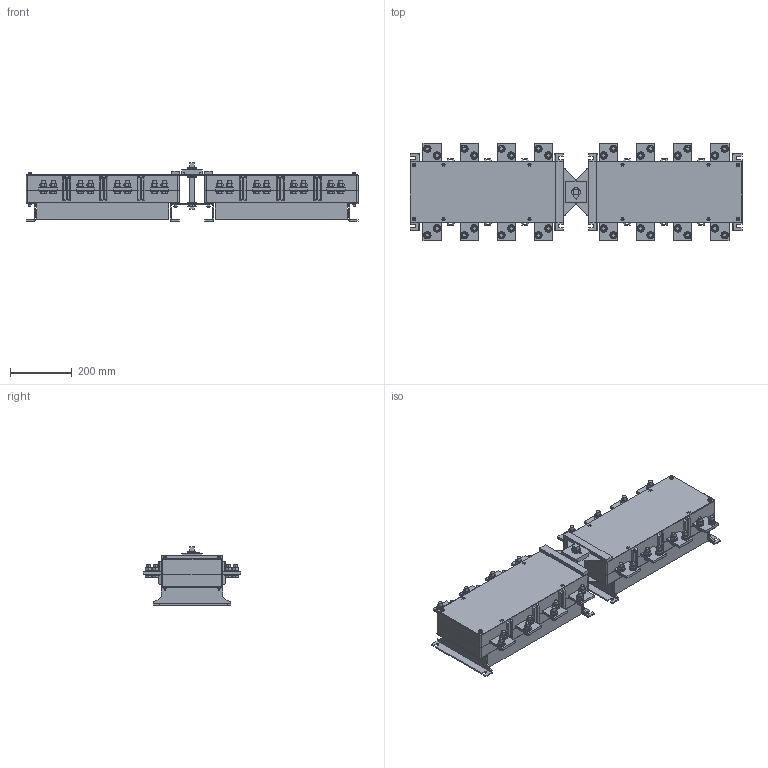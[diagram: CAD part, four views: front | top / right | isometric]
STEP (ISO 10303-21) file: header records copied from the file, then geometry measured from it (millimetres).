
FILE_DESCRIPTION((''),'2;1');
FILE_NAME('1000-4S_ASM','2021-05-07T',('wangpeng'),(''),'PRO/ENGINEER BY PARAMETRIC TECHNOLOGY CORPORATION, 2009460','PRO/ENGINEER BY PARAMETRIC TECHNOLOGY CORPORATION, 2009460','');
FILE_SCHEMA(('AUTOMOTIVE_DESIGN { 1 0 10303 214 1 1 1 1 }'));
Length unit declared in the file: millimetre
Products named in the file (23): SB-1000-4S; ZB-1000-4S; XB-1000-4S; CT-1000-4S; YB-1000-4S; ZCB-1000-4S; DB-1000-4S; DBX-1000-4S; ZCBX-1000-4S; LGM6; LMM6; 0LGM6; PDQ6; PDQ12; LSM12; TDQ12; LMM12; ZSJNH40; FKSNH40; ZSJTNH40; ZZ-1000-4S; DQM8; 1000-4S_ASM
Assembly tree (239 placements, depth 2):
  1000-4S_ASM
    SB-1000-4S  x2
    ZB-1000-4S  x2
    XB-1000-4S  x2
    CT-1000-4S  x8
    YB-1000-4S  x2
    ZCB-1000-4S
    DB-1000-4S  x2
    DBX-1000-4S  x2
    ZCBX-1000-4S
    LGM6  x8
    LMM6  x28
    0LGM6  x8
    PDQ6  x4
    PDQ12  x64
    LSM12  x33
    TDQ12  x32
    LMM12  x32
    ZSJNH40
    FKSNH40  x3
    ZSJTNH40
    ZZ-1000-4S
    DQM8  x2
Bounding box: 1075 x 316 x 189 mm (x, y, z)
Volume: 28781120.6 mm3; surface area: 2520525.1 mm2
Topology: 239 solids, 239 shells, 3831 faces, 8801 edges, 5508 vertices
Faces by surface type: plane 1806, cylinder 1045, cone 918, sphere 38, bspline 16, torus 8
Entity records: 26583 total; most frequent: CARTESIAN_POINT 5450, DIRECTION 4067, ORIENTED_EDGE 3620, EDGE_CURVE 1810, AXIS2_PLACEMENT_3D 1407, VECTOR 1253, LINE 1253, VERTEX_POINT 1170
